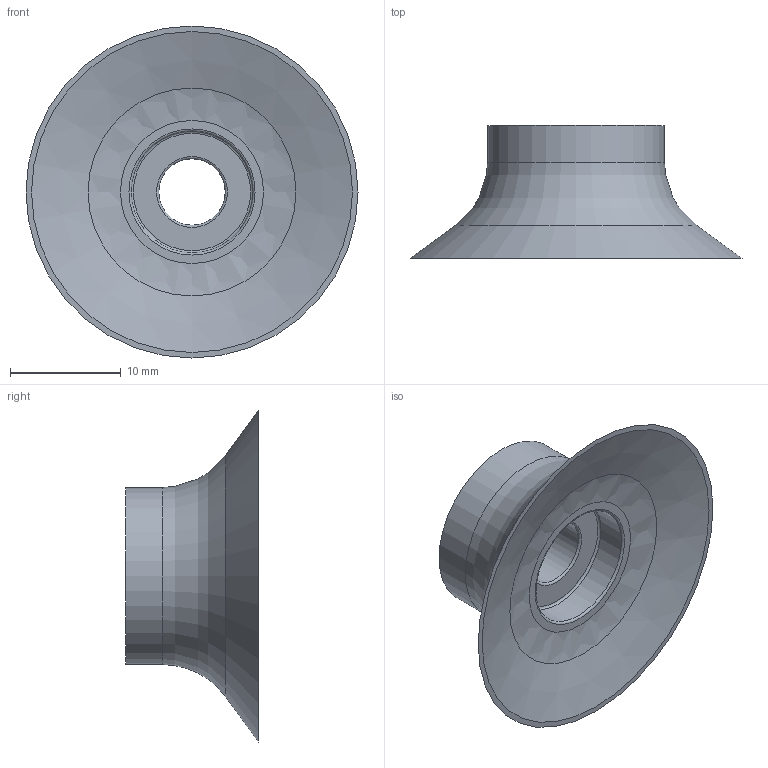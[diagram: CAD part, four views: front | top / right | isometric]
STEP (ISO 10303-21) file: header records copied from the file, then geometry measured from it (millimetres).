
FILE_DESCRIPTION(('STEP AP203'),'1');
FILE_NAME('_3D.stp','2024-06-11T23:46:55',(' '),(' '),'Spatial InterOp 3D',' ',' ');
FILE_SCHEMA(('CONFIG_CONTROL_DESIGN'));
Length unit declared in the file: millimetre
Products named in the file (1): 1
Bounding box: 30 x 12 x 30 mm (x, y, z)
Volume: 2377.2 mm3; surface area: 2052.2 mm2
Topology: 1 solids, 1 shells, 15 faces, 30 edges, 19 vertices
Faces by surface type: torus 5, plane 4, cylinder 3, cone 2, bspline 1
Full cylindrical faces by diameter (mm): 6 x1, 11 x1, 16 x1
Entity records: 375 total; most frequent: CARTESIAN_POINT 73, DIRECTION 60, AXIS2_PLACEMENT_3D 30, EDGE_LOOP 30, ORIENTED_EDGE 30, FACE_OUTER_BOUND 24, ADVANCED_FACE 15, EDGE_CURVE 15
